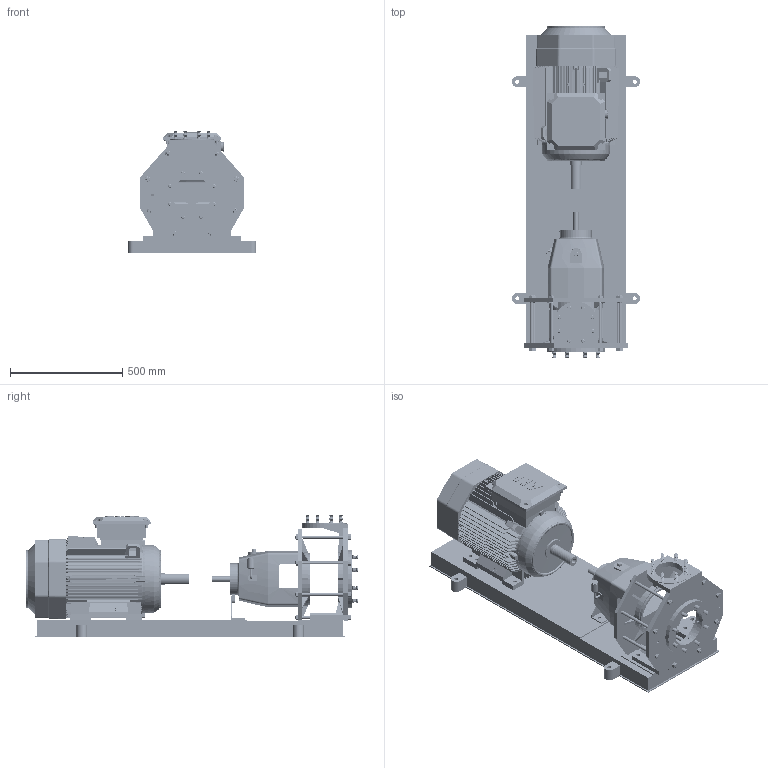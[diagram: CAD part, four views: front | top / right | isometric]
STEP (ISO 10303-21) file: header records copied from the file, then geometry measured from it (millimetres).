
FILE_DESCRIPTION((''),'2;1');
FILE_NAME('KSI 80-200--180 frame.stp','2010-08-04T13:58:40',(''),(''),'AutoCAD STEP 2000i','AutoCAD 2000i',', , ');
FILE_SCHEMA(('CONFIG_CONTROL_DESIGN'));
Length unit declared in the file: millimetre
Products named in the file (4): KSI 80-200--180 FRAME A; Motor; M3BP180 IM1001; Any
Assembly tree (2 placements, depth 2):
  KSI 80-200--180 FRAME A
    Motor
    M3BP180 IM1001
  Any
Bounding box: 570 x 1476.25 x 547 mm (x, y, z)
Volume: 125430113.8 mm3; surface area: 5771629.2 mm2
Topology: 51 solids, 51 shells, 9909 faces, 24764 edges, 15200 vertices
Faces by surface type: cone 3430, torus 3206, cylinder 1820, plane 1064, bspline 389
Entity records: 302026 total; most frequent: CARTESIAN_POINT 59365, DIRECTION 57603, ORIENTED_EDGE 49110, AXIS2_PLACEMENT_3D 25198, EDGE_CURVE 24555, CIRCLE 15675, VERTEX_POINT 14838, EDGE_LOOP 10187
